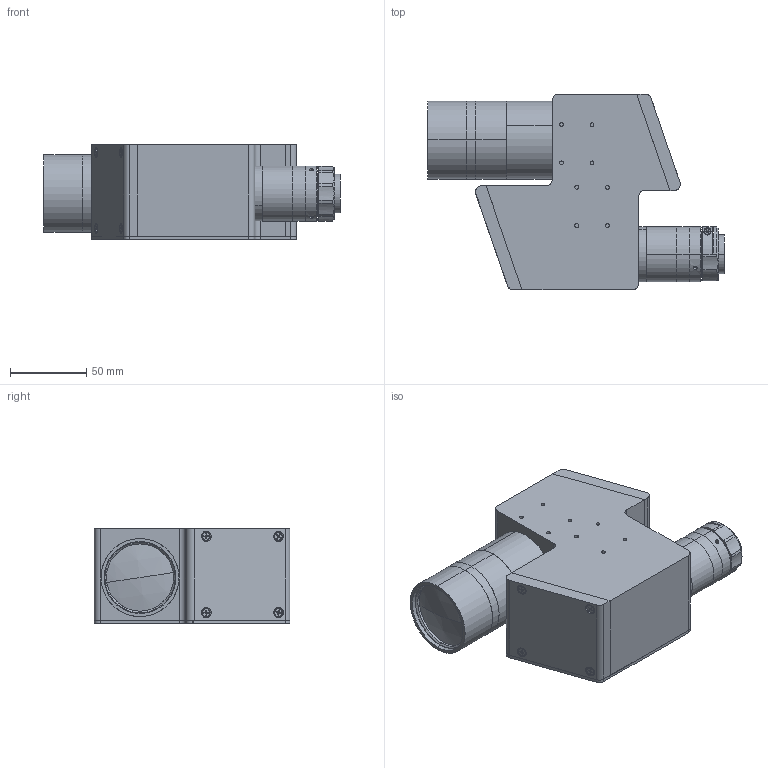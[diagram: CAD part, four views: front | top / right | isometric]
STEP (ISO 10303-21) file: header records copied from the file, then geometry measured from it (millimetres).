
FILE_DESCRIPTION (( 'STEP AP203' ), '1' );
FILE_NAME ('XF-MH095X389.STEP', '2020-08-24T07:19:43', ( 'canrill-02' ), ( '' ), 'SwSTEP 2.0', 'SolidWorks 2014', '' );
FILE_SCHEMA (( 'CONFIG_CONTROL_DESIGN' ));
Length unit declared in the file: millimetre
Products named in the file (1): XF-MH095X389
Bounding box: 194.04 x 128 x 62 mm (x, y, z)
Surface area: 90719.3 mm2 (no closed solid volume)
Topology: 0 solids, 32 shells, 405 faces, 1318 edges, 914 vertices
Faces by surface type: plane 200, cylinder 158, cone 43, sphere 2, torus 2
Entity records: 14813 total; most frequent: CARTESIAN_POINT 2969, DIRECTION 2582, ORIENTED_EDGE 2141, EDGE_CURVE 1316, VERTEX_POINT 914, AXIS2_PLACEMENT_3D 887, LINE 808, VECTOR 808
